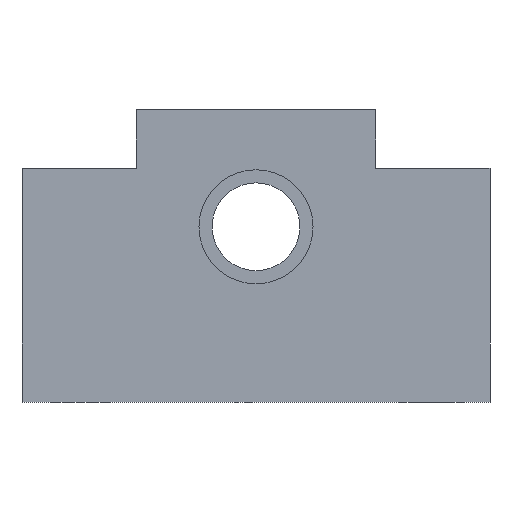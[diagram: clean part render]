
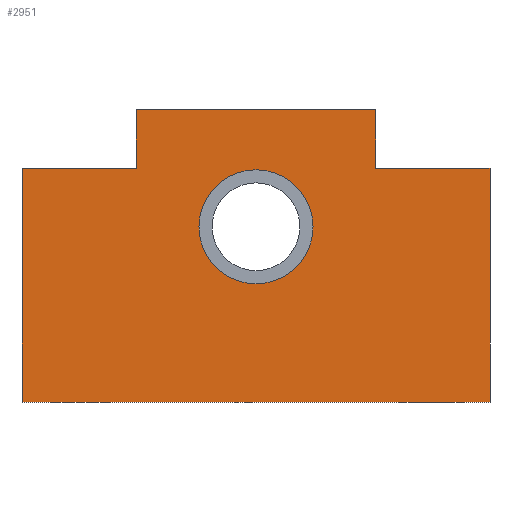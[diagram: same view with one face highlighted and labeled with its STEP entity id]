
A CAD part, left-side view. The second image highlights one B-rep face of the part: STEP entity #2951.
In plain terms, the highlighted planar face has unit normal (-1, 0, 0).
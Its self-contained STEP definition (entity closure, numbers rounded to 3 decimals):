
#2023=CARTESIAN_POINT('',(-25.0,9.75,0.0));
#2024=VERTEX_POINT('',#2023);
#2025=CARTESIAN_POINT('',(-25.0,0.0,0.0));
#2026=DIRECTION('',(1.0,0.0,0.0));
#2027=DIRECTION('',(0.0,1.0,0.0));
#2028=AXIS2_PLACEMENT_3D('',#2025,#2026,#2027);
#2029=CIRCLE('',#2028,9.75);
#2030=EDGE_CURVE('',#2024,#2024,#2029,.T.);
#2722=CARTESIAN_POINT('',(-25.0,-40.0,-30.));
#2723=VERTEX_POINT('',#2722);
#2724=CARTESIAN_POINT('',(-25.0,40.0,-30.));
#2725=VERTEX_POINT('',#2724);
#2726=CARTESIAN_POINT('',(-25.0,-40.0,-30.));
#2727=DIRECTION('',(0.0,1.0,0.0));
#2728=VECTOR('',#2727,80.0);
#2729=LINE('',#2726,#2728);
#2730=EDGE_CURVE('',#2723,#2725,#2729,.T.);
#2759=CARTESIAN_POINT('',(-25.0,40.0,10.));
#2760=VERTEX_POINT('',#2759);
#2761=CARTESIAN_POINT('',(-25.0,40.0,-30.));
#2762=DIRECTION('',(0.0,0.0,1.0));
#2763=VECTOR('',#2762,40.0);
#2764=LINE('',#2761,#2763);
#2765=EDGE_CURVE('',#2725,#2760,#2764,.T.);
#2783=CARTESIAN_POINT('',(-25.0,20.5,10.));
#2784=VERTEX_POINT('',#2783);
#2785=CARTESIAN_POINT('',(-25.0,40.0,10.));
#2786=DIRECTION('',(0.0,-1.0,0.0));
#2787=VECTOR('',#2786,19.5);
#2788=LINE('',#2785,#2787);
#2789=EDGE_CURVE('',#2760,#2784,#2788,.T.);
#2810=CARTESIAN_POINT('',(-25.0,20.5,20.));
#2811=VERTEX_POINT('',#2810);
#2812=CARTESIAN_POINT('',(-25.0,20.5,10.));
#2813=DIRECTION('',(0.0,0.0,1.0));
#2814=VECTOR('',#2813,10.);
#2815=LINE('',#2812,#2814);
#2816=EDGE_CURVE('',#2784,#2811,#2815,.T.);
#2838=CARTESIAN_POINT('',(-25.0,-20.5,20.));
#2839=VERTEX_POINT('',#2838);
#2840=CARTESIAN_POINT('',(-25.0,20.5,20.));
#2841=DIRECTION('',(0.0,-1.0,0.0));
#2842=VECTOR('',#2841,41.);
#2843=LINE('',#2840,#2842);
#2844=EDGE_CURVE('',#2811,#2839,#2843,.T.);
#2866=CARTESIAN_POINT('',(-25.0,-20.5,10.));
#2867=VERTEX_POINT('',#2866);
#2868=CARTESIAN_POINT('',(-25.0,-20.5,20.));
#2869=DIRECTION('',(0.0,0.0,-1.0));
#2870=VECTOR('',#2869,10.);
#2871=LINE('',#2868,#2870);
#2872=EDGE_CURVE('',#2839,#2867,#2871,.T.);
#2894=CARTESIAN_POINT('',(-25.0,-40.0,10.));
#2895=VERTEX_POINT('',#2894);
#2896=CARTESIAN_POINT('',(-25.0,-20.5,10.));
#2897=DIRECTION('',(0.0,-1.0,0.0));
#2898=VECTOR('',#2897,19.5);
#2899=LINE('',#2896,#2898);
#2900=EDGE_CURVE('',#2867,#2895,#2899,.T.);
#2921=CARTESIAN_POINT('',(-25.0,-40.0,10.));
#2922=DIRECTION('',(0.0,0.0,-1.0));
#2923=VECTOR('',#2922,40.0);
#2924=LINE('',#2921,#2923);
#2925=EDGE_CURVE('',#2895,#2723,#2924,.T.);
#2933=CARTESIAN_POINT('',(-25.0,0.,-6.5));
#2934=DIRECTION('',(1.0,0.0,0.0));
#2935=DIRECTION('',(0.0,0.0,-1.0));
#2936=AXIS2_PLACEMENT_3D('',#2933,#2934,#2935);
#2937=PLANE('',#2936);
#2938=ORIENTED_EDGE('',*,*,#2730,.F.);
#2939=ORIENTED_EDGE('',*,*,#2925,.F.);
#2940=ORIENTED_EDGE('',*,*,#2900,.F.);
#2941=ORIENTED_EDGE('',*,*,#2872,.F.);
#2942=ORIENTED_EDGE('',*,*,#2844,.F.);
#2943=ORIENTED_EDGE('',*,*,#2816,.F.);
#2944=ORIENTED_EDGE('',*,*,#2789,.F.);
#2945=ORIENTED_EDGE('',*,*,#2765,.F.);
#2946=EDGE_LOOP('',(#2938,#2939,#2940,#2941,#2942,#2943,#2944,#2945));
#2947=FACE_OUTER_BOUND('',#2946,.T.);
#2948=ORIENTED_EDGE('',*,*,#2030,.T.);
#2949=EDGE_LOOP('',(#2948));
#2950=FACE_BOUND('',#2949,.T.);
#2951=ADVANCED_FACE('',(#2947,#2950),#2937,.F.);
